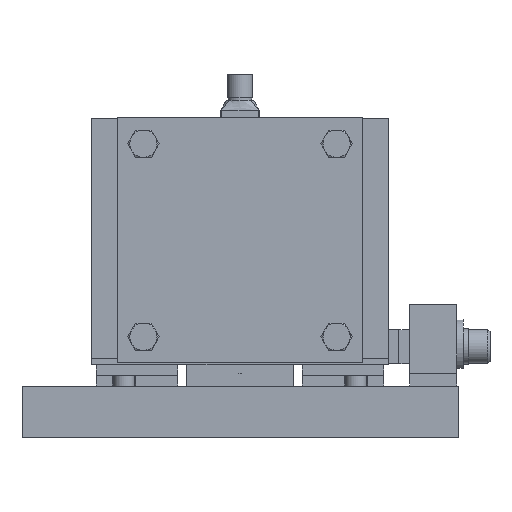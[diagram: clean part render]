
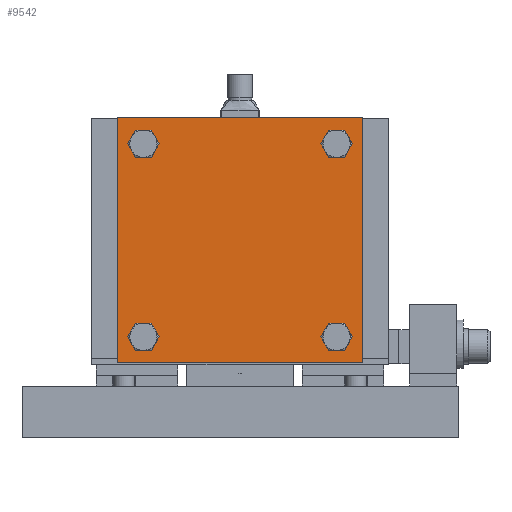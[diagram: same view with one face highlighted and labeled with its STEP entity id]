
A CAD part, front view. The second image highlights one B-rep face of the part: STEP entity #9542.
In plain terms, the highlighted planar face has unit normal (0, -1, 0) as drawn and (0, 0, 1) by its records, which use the part's own axes.
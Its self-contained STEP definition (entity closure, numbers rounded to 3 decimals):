
#749=LINE($,#15468,#1409);
#753=LINE($,#15476,#1413);
#756=LINE($,#15482,#1416);
#759=LINE($,#15487,#1419);
#1409=VECTOR($,#12329,114.3);
#1413=VECTOR($,#12335,114.3);
#1416=VECTOR($,#12340,114.3);
#1419=VECTOR($,#12345,114.3);
#1923=PLANE($,#10444);
#2305=FACE_BOUND($,#3798,.T.);
#2306=FACE_BOUND($,#3799,.T.);
#2307=FACE_BOUND($,#3800,.T.);
#2308=FACE_BOUND($,#3801,.T.);
#3006=FACE_OUTER_BOUND($,#3797,.T.);
#3797=EDGE_LOOP($,(#7864,#7865,#7866,#7867));
#3798=EDGE_LOOP($,(#7868));
#3799=EDGE_LOOP($,(#7869));
#3800=EDGE_LOOP($,(#7870));
#3801=EDGE_LOOP($,(#7871));
#4606=CIRCLE($,#10422,4.25);
#4608=CIRCLE($,#10425,4.25);
#4610=CIRCLE($,#10428,4.25);
#4612=CIRCLE($,#10431,4.25);
#5217=VERTEX_POINT($,#15436);
#5219=VERTEX_POINT($,#15441);
#5221=VERTEX_POINT($,#15446);
#5223=VERTEX_POINT($,#15451);
#5228=VERTEX_POINT($,#15466);
#5229=VERTEX_POINT($,#15467);
#5232=VERTEX_POINT($,#15475);
#5234=VERTEX_POINT($,#15481);
#6206=EDGE_CURVE($,#5217,#5217,#4606,.T.);
#6208=EDGE_CURVE($,#5219,#5219,#4608,.T.);
#6210=EDGE_CURVE($,#5221,#5221,#4610,.T.);
#6212=EDGE_CURVE($,#5223,#5223,#4612,.T.);
#6217=EDGE_CURVE($,#5228,#5229,#749,.T.);
#6221=EDGE_CURVE($,#5229,#5232,#753,.T.);
#6224=EDGE_CURVE($,#5232,#5234,#756,.T.);
#6227=EDGE_CURVE($,#5234,#5228,#759,.T.);
#7864=ORIENTED_EDGE($,*,*,#6217,.F.);
#7865=ORIENTED_EDGE($,*,*,#6227,.F.);
#7866=ORIENTED_EDGE($,*,*,#6224,.F.);
#7867=ORIENTED_EDGE($,*,*,#6221,.F.);
#7868=ORIENTED_EDGE($,*,*,#6206,.T.);
#7869=ORIENTED_EDGE($,*,*,#6208,.T.);
#7870=ORIENTED_EDGE($,*,*,#6210,.T.);
#7871=ORIENTED_EDGE($,*,*,#6212,.T.);
#9542=ADVANCED_FACE($,(#3006,#2305,#2306,#2307,#2308),#1923,.T.);
#10422=AXIS2_PLACEMENT_3D($,#15437,#12291,#12292);
#10425=AXIS2_PLACEMENT_3D($,#15442,#12297,#12298);
#10428=AXIS2_PLACEMENT_3D($,#15447,#12303,#12304);
#10431=AXIS2_PLACEMENT_3D($,#15452,#12309,#12310);
#10444=AXIS2_PLACEMENT_3D($,#15489,#12347,#12348);
#12291=DIRECTION('center_axis',(0.,0.,-1.));
#12292=DIRECTION('ref_axis',(1.,0.,0.));
#12297=DIRECTION('center_axis',(0.,0.,-1.));
#12298=DIRECTION('ref_axis',(1.,0.,0.));
#12303=DIRECTION('center_axis',(0.,0.,-1.));
#12304=DIRECTION('ref_axis',(1.,0.,0.));
#12309=DIRECTION('center_axis',(0.,0.,-1.));
#12310=DIRECTION('ref_axis',(1.,0.,0.));
#12329=DIRECTION($,(0.,-1.,0.));
#12335=DIRECTION($,(-1.,0.,0.));
#12340=DIRECTION($,(0.,1.,0.));
#12345=DIRECTION($,(1.,0.,0.));
#12347=DIRECTION('center_axis',(0.,0.,1.));
#12348=DIRECTION('ref_axis',(1.,0.,0.));
#15436=CARTESIAN_POINT('',(49.25,-45.,30.));
#15437=CARTESIAN_POINT('Origin',(45.,-45.,30.));
#15441=CARTESIAN_POINT('',(49.25,45.,30.));
#15442=CARTESIAN_POINT('Origin',(45.,45.,30.));
#15446=CARTESIAN_POINT('',(-40.75,45.,30.));
#15447=CARTESIAN_POINT('Origin',(-45.,45.,30.));
#15451=CARTESIAN_POINT('',(-40.75,-45.,30.));
#15452=CARTESIAN_POINT('Origin',(-45.,-45.,30.));
#15466=CARTESIAN_POINT('',(57.15,57.15,30.));
#15467=CARTESIAN_POINT('',(57.15,-57.15,30.));
#15468=CARTESIAN_POINT($,(57.15,57.15,30.));
#15475=CARTESIAN_POINT('',(-57.15,-57.15,30.));
#15476=CARTESIAN_POINT($,(57.15,-57.15,30.));
#15481=CARTESIAN_POINT('',(-57.15,57.15,30.));
#15482=CARTESIAN_POINT($,(-57.15,-57.15,30.));
#15487=CARTESIAN_POINT($,(-57.15,57.15,30.));
#15489=CARTESIAN_POINT('Origin',(0.,0.,
30.));
